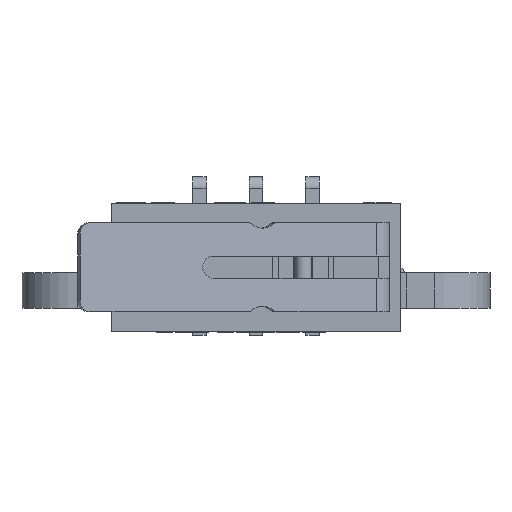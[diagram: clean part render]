
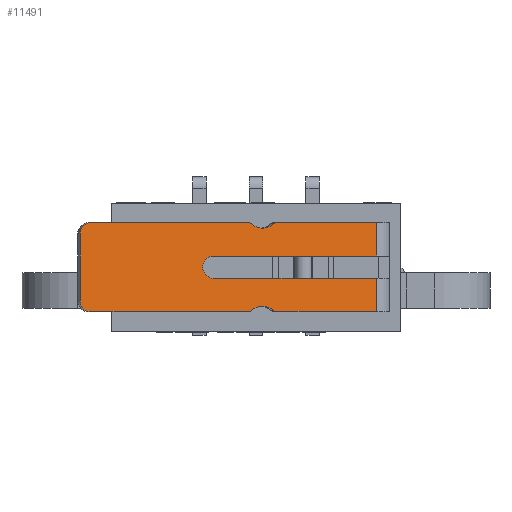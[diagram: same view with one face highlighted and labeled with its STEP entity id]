
A CAD part, left-side view. The second image highlights one B-rep face of the part: STEP entity #11491.
In plain terms, the highlighted planar face has unit normal (-0.974, -0.225, 0) as drawn and (-0.225, 0.974, 0) by its records, which use the part's own axes.
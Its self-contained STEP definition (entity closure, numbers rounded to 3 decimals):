
#137=CIRCLE('',#12214,0.5);
#138=CIRCLE('',#12215,0.25);
#139=CIRCLE('',#12216,0.75);
#140=CIRCLE('',#12217,0.25);
#141=CIRCLE('',#12218,0.5);
#142=CIRCLE('',#12219,0.5);
#143=CIRCLE('',#12220,0.25);
#144=CIRCLE('',#12221,0.75);
#145=CIRCLE('',#12222,0.25);
#146=CIRCLE('',#12223,0.5);
#423=PLANE('',#12213);
#948=FACE_OUTER_BOUND('',#1592,.T.);
#1592=EDGE_LOOP('',(#8891,#8892,#8893,#8894,#8895,#8896,#8897,#8898,#8899,
#8900,#8901,#8902,#8903,#8904,#8905,#8906,#8907,#8908,#8909));
#2441=LINE('',#17710,#3648);
#2443=LINE('',#17715,#3650);
#2450=LINE('',#17734,#3657);
#2460=LINE('',#17758,#3667);
#2464=LINE('',#17771,#3671);
#2469=LINE('',#17782,#3676);
#2470=LINE('',#17786,#3677);
#2471=LINE('',#17794,#3678);
#2472=LINE('',#17799,#3679);
#3648=VECTOR('',#13396,7.237);
#3650=VECTOR('',#13400,4.589);
#3657=VECTOR('',#13415,1.5);
#3667=VECTOR('',#13437,4.589);
#3671=VECTOR('',#13447,7.237);
#3676=VECTOR('',#13456,1.5);
#3677=VECTOR('',#13459,3.);
#3678=VECTOR('',#13468,7.5);
#3679=VECTOR('',#13473,7.5);
#5186=VERTEX_POINT('',#17707);
#5187=VERTEX_POINT('',#17709);
#5188=VERTEX_POINT('',#17713);
#5189=VERTEX_POINT('',#17714);
#5197=VERTEX_POINT('',#17732);
#5204=VERTEX_POINT('',#17755);
#5205=VERTEX_POINT('',#17757);
#5210=VERTEX_POINT('',#17769);
#5211=VERTEX_POINT('',#17770);
#5214=VERTEX_POINT('',#17778);
#5216=VERTEX_POINT('',#17784);
#5217=VERTEX_POINT('',#17785);
#5218=VERTEX_POINT('',#17788);
#5219=VERTEX_POINT('',#17790);
#5220=VERTEX_POINT('',#17793);
#5221=VERTEX_POINT('',#17795);
#5222=VERTEX_POINT('',#17797);
#5223=VERTEX_POINT('',#17800);
#5224=VERTEX_POINT('',#17802);
#6511=EDGE_CURVE('',#5186,#5187,#2441,.T.);
#6513=EDGE_CURVE('',#5188,#5189,#2443,.T.);
#6523=EDGE_CURVE('',#5197,#5189,#2450,.T.);
#6534=EDGE_CURVE('',#5204,#5205,#2460,.T.);
#6540=EDGE_CURVE('',#5210,#5211,#2464,.T.);
#6546=EDGE_CURVE('',#5205,#5214,#2469,.T.);
#6547=EDGE_CURVE('',#5216,#5217,#2470,.T.);
#6548=EDGE_CURVE('',#5217,#5210,#137,.F.);
#6549=EDGE_CURVE('',#5211,#5218,#138,.F.);
#6550=EDGE_CURVE('',#5219,#5218,#139,.T.);
#6551=EDGE_CURVE('',#5219,#5188,#140,.F.);
#6552=EDGE_CURVE('',#5220,#5197,#2471,.T.);
#6553=EDGE_CURVE('',#5220,#5221,#141,.T.);
#6554=EDGE_CURVE('',#5221,#5222,#142,.T.);
#6555=EDGE_CURVE('',#5222,#5214,#2472,.T.);
#6556=EDGE_CURVE('',#5204,#5223,#143,.F.);
#6557=EDGE_CURVE('',#5224,#5223,#144,.T.);
#6558=EDGE_CURVE('',#5224,#5187,#145,.F.);
#6559=EDGE_CURVE('',#5186,#5216,#146,.F.);
#8891=ORIENTED_EDGE('',*,*,#6547,.T.);
#8892=ORIENTED_EDGE('',*,*,#6548,.T.);
#8893=ORIENTED_EDGE('',*,*,#6540,.T.);
#8894=ORIENTED_EDGE('',*,*,#6549,.T.);
#8895=ORIENTED_EDGE('',*,*,#6550,.F.);
#8896=ORIENTED_EDGE('',*,*,#6551,.T.);
#8897=ORIENTED_EDGE('',*,*,#6513,.T.);
#8898=ORIENTED_EDGE('',*,*,#6523,.F.);
#8899=ORIENTED_EDGE('',*,*,#6552,.F.);
#8900=ORIENTED_EDGE('',*,*,#6553,.T.);
#8901=ORIENTED_EDGE('',*,*,#6554,.T.);
#8902=ORIENTED_EDGE('',*,*,#6555,.T.);
#8903=ORIENTED_EDGE('',*,*,#6546,.F.);
#8904=ORIENTED_EDGE('',*,*,#6534,.F.);
#8905=ORIENTED_EDGE('',*,*,#6556,.T.);
#8906=ORIENTED_EDGE('',*,*,#6557,.F.);
#8907=ORIENTED_EDGE('',*,*,#6558,.T.);
#8908=ORIENTED_EDGE('',*,*,#6511,.F.);
#8909=ORIENTED_EDGE('',*,*,#6559,.T.);
#11491=ADVANCED_FACE('',(#948),#423,.F.);
#12213=AXIS2_PLACEMENT_3D('',#17783,#13457,#13458);
#12214=AXIS2_PLACEMENT_3D('',#17787,#13460,#13461);
#12215=AXIS2_PLACEMENT_3D('',#17789,#13462,#13463);
#12216=AXIS2_PLACEMENT_3D('',#17791,#13464,#13465);
#12217=AXIS2_PLACEMENT_3D('',#17792,#13466,#13467);
#12218=AXIS2_PLACEMENT_3D('',#17796,#13469,#13470);
#12219=AXIS2_PLACEMENT_3D('',#17798,#13471,#13472);
#12220=AXIS2_PLACEMENT_3D('',#17801,#13474,#13475);
#12221=AXIS2_PLACEMENT_3D('',#17803,#13476,#13477);
#12222=AXIS2_PLACEMENT_3D('',#17804,#13478,#13479);
#12223=AXIS2_PLACEMENT_3D('',#17805,#13480,#13481);
#13396=DIRECTION('',(-0.974,-0.225,0.));
#13400=DIRECTION('',(-0.974,-0.225,0.));
#13415=DIRECTION('',(0.,0.,-1.));
#13437=DIRECTION('',(-0.974,-0.225,0.));
#13447=DIRECTION('',(-0.974,-0.225,0.));
#13456=DIRECTION('',(0.,0.,-1.));
#13457=DIRECTION('center_axis',(0.225,-0.974,0.));
#13458=DIRECTION('ref_axis',(0.,0.,-1.));
#13459=DIRECTION('',(0.,0.,-1.));
#13460=DIRECTION('center_axis',(0.225,-0.974,0.));
#13461=DIRECTION('ref_axis',(0.974,0.225,0.));
#13462=DIRECTION('center_axis',(0.225,-0.974,0.));
#13463=DIRECTION('ref_axis',(0.974,0.225,0.));
#13464=DIRECTION('center_axis',(-0.225,0.974,0.));
#13465=DIRECTION('ref_axis',(-0.974,-0.225,0.));
#13466=DIRECTION('center_axis',(0.225,-0.974,0.));
#13467=DIRECTION('ref_axis',(0.974,0.225,0.));
#13468=DIRECTION('',(-0.974,-0.225,0.));
#13469=DIRECTION('center_axis',(0.225,-0.974,0.));
#13470=DIRECTION('ref_axis',(0.974,0.225,0.));
#13471=DIRECTION('center_axis',(0.225,-0.974,0.));
#13472=DIRECTION('ref_axis',(0.974,0.225,0.));
#13473=DIRECTION('',(-0.974,-0.225,0.));
#13474=DIRECTION('center_axis',(0.225,-0.974,0.));
#13475=DIRECTION('ref_axis',(0.974,0.225,0.));
#13476=DIRECTION('center_axis',(-0.225,0.974,0.));
#13477=DIRECTION('ref_axis',(-0.974,-0.225,0.));
#13478=DIRECTION('center_axis',(0.225,-0.974,0.));
#13479=DIRECTION('ref_axis',(0.974,0.225,0.));
#13480=DIRECTION('center_axis',(0.225,-0.974,0.));
#13481=DIRECTION('ref_axis',(0.974,0.225,0.));
#17707=CARTESIAN_POINT('',(7.405,7.076,4.875));
#17709=CARTESIAN_POINT('',(0.353,5.449,4.875));
#17710=CARTESIAN_POINT('',(7.405,7.076,4.875));
#17713=CARTESIAN_POINT('',(-0.936,5.152,0.875));
#17714=CARTESIAN_POINT('',(-5.407,4.12,0.875));
#17715=CARTESIAN_POINT('',(-0.936,5.152,0.875));
#17732=CARTESIAN_POINT('',(-5.407,4.12,2.375));
#17734=CARTESIAN_POINT('',(-5.407,4.12,2.375));
#17755=CARTESIAN_POINT('',(-0.936,5.152,4.875));
#17757=CARTESIAN_POINT('',(-5.407,4.12,4.875));
#17758=CARTESIAN_POINT('',(-0.936,5.152,4.875));
#17769=CARTESIAN_POINT('',(7.405,7.076,0.875));
#17770=CARTESIAN_POINT('',(0.353,5.449,0.875));
#17771=CARTESIAN_POINT('',(7.405,7.076,0.875));
#17778=CARTESIAN_POINT('',(-5.407,4.12,3.375));
#17782=CARTESIAN_POINT('',(-5.407,4.12,4.875));
#17783=CARTESIAN_POINT('Origin',(7.892,7.189,19.679));
#17784=CARTESIAN_POINT('',(7.892,7.189,4.375));
#17785=CARTESIAN_POINT('',(7.892,7.189,1.375));
#17786=CARTESIAN_POINT('',(7.892,7.189,4.375));
#17787=CARTESIAN_POINT('Origin',(7.405,7.076,1.375));
#17788=CARTESIAN_POINT('',(0.192,5.412,0.938));
#17789=CARTESIAN_POINT('Origin',(0.353,5.449,1.125));
#17790=CARTESIAN_POINT('',(-0.775,5.189,0.938));
#17791=CARTESIAN_POINT('Origin',(-0.292,5.3,0.375));
#17792=CARTESIAN_POINT('Origin',(-0.936,5.152,1.125));
#17793=CARTESIAN_POINT('',(1.901,5.806,2.375));
#17794=CARTESIAN_POINT('',(1.901,5.806,2.375));
#17795=CARTESIAN_POINT('',(2.388,5.919,2.875));
#17796=CARTESIAN_POINT('Origin',(1.901,5.806,2.875));
#17797=CARTESIAN_POINT('',(1.901,5.806,3.375));
#17798=CARTESIAN_POINT('Origin',(1.901,5.806,2.875));
#17799=CARTESIAN_POINT('',(1.901,5.806,3.375));
#17800=CARTESIAN_POINT('',(-0.775,5.189,4.813));
#17801=CARTESIAN_POINT('Origin',(-0.936,5.152,4.625));
#17802=CARTESIAN_POINT('',(0.192,5.412,4.813));
#17803=CARTESIAN_POINT('Origin',(-0.292,5.3,5.375));
#17804=CARTESIAN_POINT('Origin',(0.353,5.449,4.625));
#17805=CARTESIAN_POINT('Origin',(7.405,7.076,4.375));
